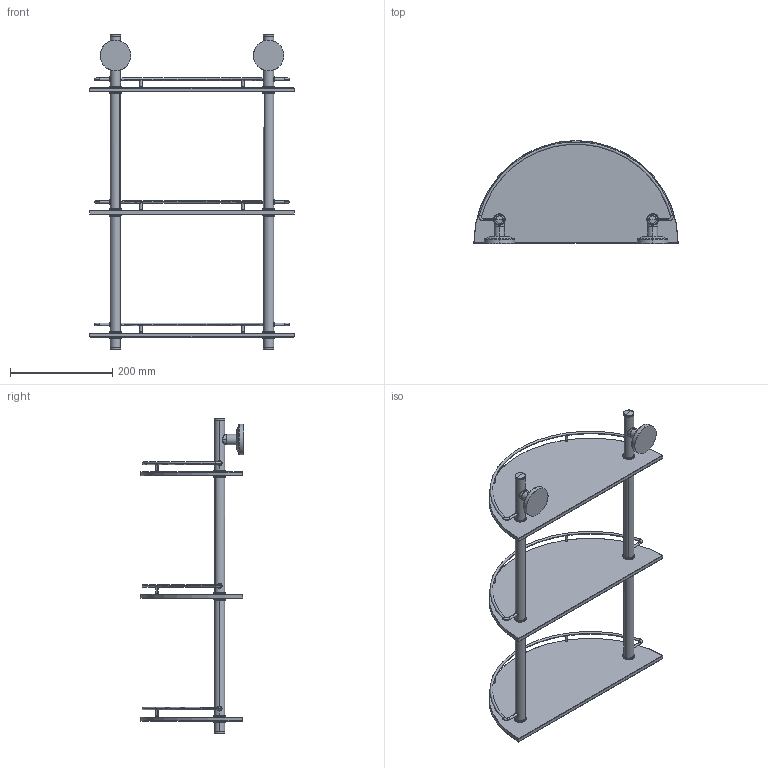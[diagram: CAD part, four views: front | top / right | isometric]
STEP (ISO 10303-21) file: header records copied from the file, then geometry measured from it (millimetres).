
FILE_DESCRIPTION(('THIS FILE CONTAINS SOME STEP INSTANCES'),'1');
FILE_NAME('sta_082.stp','2015-12-10T11:51:46',('UNDEFINED'),('UNDEFINED'),'T-FLEX CAD STEP converter','T-FLEX CAD','');
FILE_SCHEMA(('CONFIG_CONTROL_DESIGN'));
Length unit declared in the file: metre
Products named in the file (8): 3D 鐨飹懤艜_49; 砱鋋_27; 砱鋋_23; 砱鋋_24
Bounding box: 400 x 201.9 x 618.6 mm (x, y, z)
Volume: 1997979.5 mm3; surface area: 528812.8 mm2
Topology: 8 solids, 12 shells, 454 faces, 1097 edges, 671 vertices
Faces by surface type: cylinder 159, bspline 82, plane 75, cone 74, torus 56, sphere 8
Entity records: 33442 total; most frequent: CARTESIAN_POINT 25024, ORIENTED_EDGE 2130, DIRECTION 1144, EDGE_CURVE 1065, VERTEX_POINT 671, EDGE_LOOP 502, ADVANCED_FACE 454, AXIS2_PLACEMENT_3D 454
